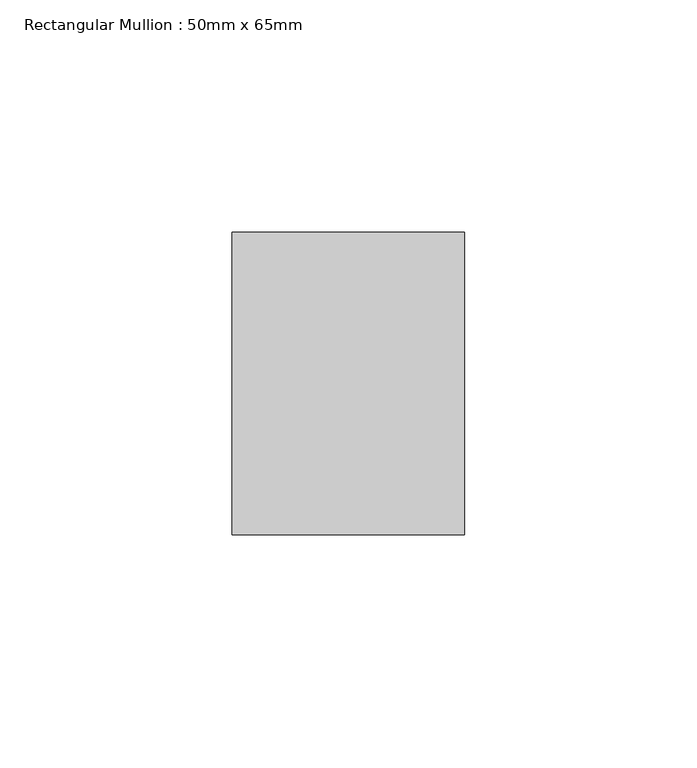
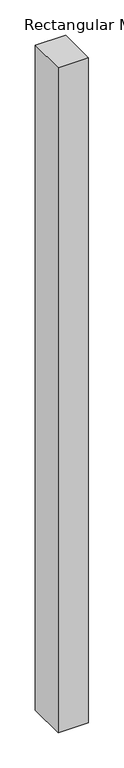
"""IFC4 building model written with IfcOpenShell, lengths in millimetres: member geometry, Rectangular Mullion : 50mm x 65mm."""

from ifc_helpers import new_model, si_unit, frame, origin, place, context, project, spatial, polyline, outline, extrude, source, transform, mapped, element, save


def rectangular_mullion_50mm_x_65mm_ce025465(model_context):
    return source(origin(), model_context, "Body", "SweptSolid", [
        extrude(outline(polyline([(0.0, 32.5), (0.0, -32.5), (-50.0, -32.5), (-50.0, 32.5), (0.0, 32.5)])), frame((0.0, 0.0, -1154.484556), z_axis=(0.0, 0.0, 1.0), x_axis=(1.0, 0.0, 0.0)), (0.0, 0.0, 1.0), 1154.484556),
    ])


if __name__ == "__main__":
    model = new_model("IFC4")
    model_context = context("Model", 3, world=origin())
    ifc_project = project(units=[si_unit("LENGTHUNIT", "METRE", prefix="MILLI")], contexts=[model_context])
    site = spatial("IfcSite", under=ifc_project)
    building = spatial("IfcBuilding", under=site)
    placement = place(None, origin())
    rectangular_mullion_50mm_x_65mm_shape = rectangular_mullion_50mm_x_65mm_ce025465(model_context)
    element("IfcMember", 1, ObjectType="Rectangular Mullion : 50mm x 65mm", at=placement, inside=building, context=model_context, shape_type="MappedRepresentation", body=[
        mapped(rectangular_mullion_50mm_x_65mm_shape, transform((0.0, 0.0, 0.0), x_axis=(1.0, 0.0, 0.0), y_axis=(0.0, 1.0, 0.0), z_axis=(0.0, 0.0, 1.0))),
    ])
    save(model, "model.ifc")
